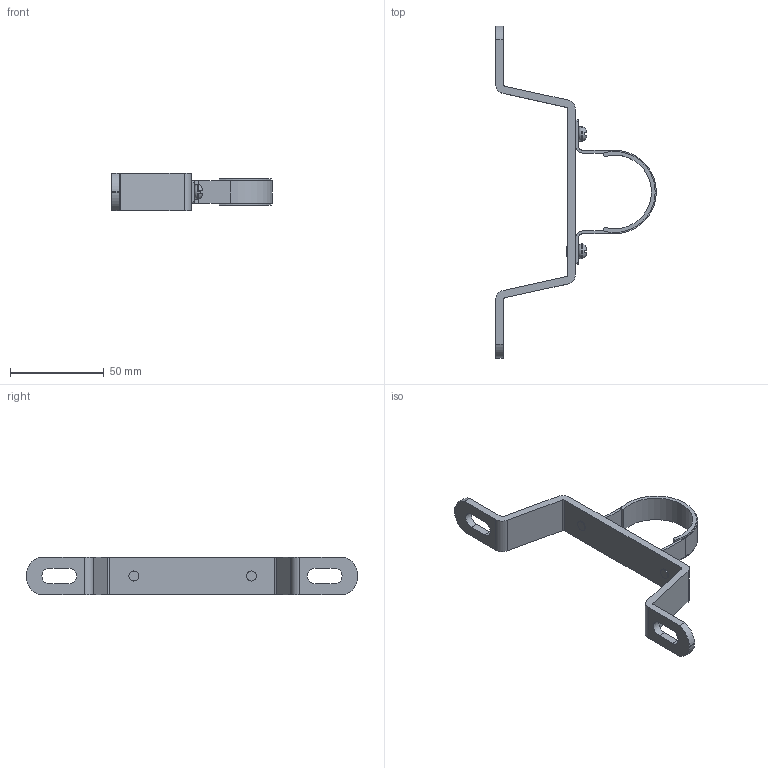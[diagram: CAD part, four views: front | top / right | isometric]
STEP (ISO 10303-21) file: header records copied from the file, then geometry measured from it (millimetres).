
FILE_DESCRIPTION(/* description */ (''),/* implementation_level */ '2;1');
FILE_NAME(/* name */ 'F:\Артём\00000\Работа удаленка\VTc.130\VTc.130.INH.0600.stp',/* time_stamp */ '2022-08-19T10:31:38+03:00',/* author */ ('almis'),/* organization */ (''),/* preprocessor_version */ 'ST-DEVELOPER v18',/* originating_system */ 'Autodesk Inventor 2020',/* authorisation */ '');
FILE_SCHEMA (('AUTOMOTIVE_DESIGN { 1 0 10303 214 3 1 1 }'));
Length unit declared in the file: millimetre
Products named in the file (1): VT.GPM.05S04.L4_05
Bounding box: 85.62 x 177 x 20 mm (x, y, z)
Volume: 21433.2 mm3; surface area: 17664 mm2
Topology: 2 solids, 2 shells, 122 faces, 344 edges, 232 vertices
Faces by surface type: plane 64, cylinder 46, cone 8, bspline 2, torus 2
Full cylindrical faces by diameter (mm): 5.384 x3, 5.39 x3, 7.931 x1, 7.941 x1
Entity records: 4280 total; most frequent: CARTESIAN_POINT 1061, ORIENTED_EDGE 688, DIRECTION 642, EDGE_CURVE 344, VERTEX_POINT 232, AXIS2_PLACEMENT_3D 229, LINE 184, VECTOR 184
